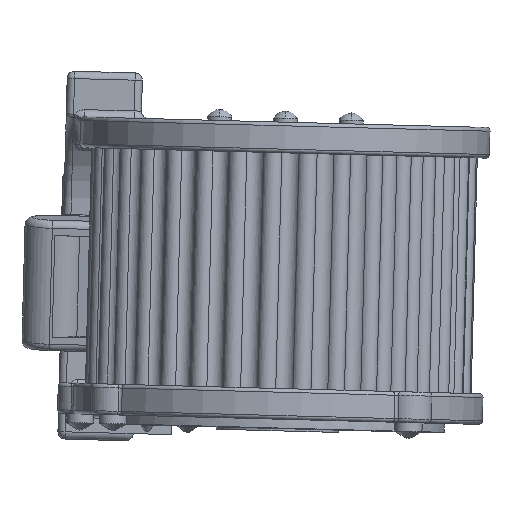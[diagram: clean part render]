
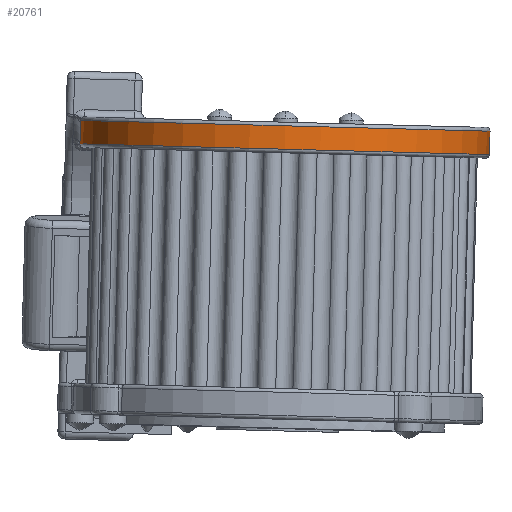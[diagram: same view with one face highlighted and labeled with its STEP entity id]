
A CAD part, left-side view. The second image highlights one B-rep face of the part: STEP entity #20761.
In plain terms, the highlighted cylindrical face has radius 14.249 mm (diameter 28.499 mm), a partial arc.
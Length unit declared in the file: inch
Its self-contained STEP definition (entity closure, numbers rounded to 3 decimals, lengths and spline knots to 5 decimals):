
#2178 = AXIS2_PLACEMENT_3D ( 'NONE', #12189, #12187, #12182 ) ;
#7435 = ORIENTED_EDGE ( 'NONE', *, *, #22201, .F. ) ;
#7436 = ORIENTED_EDGE ( 'NONE', *, *, #22206, .T. ) ;
#7437 = ORIENTED_EDGE ( 'NONE', *, *, #22163, .T. ) ;
#7438 = ORIENTED_EDGE ( 'NONE', *, *, #22207, .T. ) ;
#7917 = AXIS2_PLACEMENT_3D ( 'NONE', #21514, #21515, #21516 ) ;
#7918 = AXIS2_PLACEMENT_3D ( 'NONE', #21517, #21518, #21519 ) ;
#8071 = VERTEX_POINT ( 'NONE', #13501 ) ;
#8072 = VERTEX_POINT ( 'NONE', #13502 ) ;
#8105 = VERTEX_POINT ( 'NONE', #13535 ) ;
#8117 = VERTEX_POINT ( 'NONE', #13547 ) ;
#12182 = DIRECTION ( 'NONE',  ( 0., 1., 0.026 ) ) ;
#12187 = DIRECTION ( 'NONE',  ( 0., 0.026, -1. ) ) ;
#12189 = CARTESIAN_POINT ( 'NONE',  ( -0.765, -0.0233, 2.44976 ) ) ;
#13074 = EDGE_LOOP ( 'NONE', ( #7435, #7436, #7437, #7438 ) ) ;
#13501 = CARTESIAN_POINT ( 'NONE',  ( -0.204, 0.02017, 0.78958 ) ) ;
#13502 = CARTESIAN_POINT ( 'NONE',  ( -0.204, 0.0185, 0.85356 ) ) ;
#13535 = CARTESIAN_POINT ( 'NONE',  ( -0.765, 0.58098, 0.80427 ) ) ;
#13547 = CARTESIAN_POINT ( 'NONE',  ( -0.765, 0.57931, 0.86825 ) ) ;
#14753 = FACE_OUTER_BOUND ( 'NONE', #13074, .T. ) ;
#14757 = CYLINDRICAL_SURFACE ( 'NONE', #2178, 0.561 ) ;
#17964 = LINE ( 'NONE', #21417, #17967 ) ;
#17967 = VECTOR ( 'NONE', #21419, 39.37008 ) ;
#18030 = LINE ( 'NONE', #21502, #18033 ) ;
#18033 = VECTOR ( 'NONE', #21503, 39.37008 ) ;
#18040 = CIRCLE ( 'NONE', #7917, 0.561 ) ;
#18042 = CIRCLE ( 'NONE', #7918, 0.561 ) ;
#20761 = ADVANCED_FACE ( 'NONE', ( #14753 ), #14757, .T. ) ;
#21417 = CARTESIAN_POINT ( 'NONE',  ( -0.765, 0.53751, 2.46445 ) ) ;
#21419 = DIRECTION ( 'NONE',  ( 0., 0.026, -1. ) ) ;
#21502 = CARTESIAN_POINT ( 'NONE',  ( -0.204, -0.0233, 2.44976 ) ) ;
#21503 = DIRECTION ( 'NONE',  ( 0., 0.026, -1. ) ) ;
#21514 = CARTESIAN_POINT ( 'NONE',  ( -0.765, 0.0185, 0.85356 ) ) ;
#21515 = DIRECTION ( 'NONE',  ( 0., 0.026, -1. ) ) ;
#21516 = DIRECTION ( 'NONE',  ( 0., 1., 0.026 ) ) ;
#21517 = CARTESIAN_POINT ( 'NONE',  ( -0.765, 0.02017, 0.78958 ) ) ;
#21518 = DIRECTION ( 'NONE',  ( 0., -0.026, 1. ) ) ;
#21519 = DIRECTION ( 'NONE',  ( 0., 1., 0.026 ) ) ;
#22163 = EDGE_CURVE ( 'NONE', #8117, #8105, #17964, .T. ) ;
#22201 = EDGE_CURVE ( 'NONE', #8072, #8071, #18030, .T. ) ;
#22206 = EDGE_CURVE ( 'NONE', #8072, #8117, #18040, .T. ) ;
#22207 = EDGE_CURVE ( 'NONE', #8105, #8071, #18042, .T. ) ;
